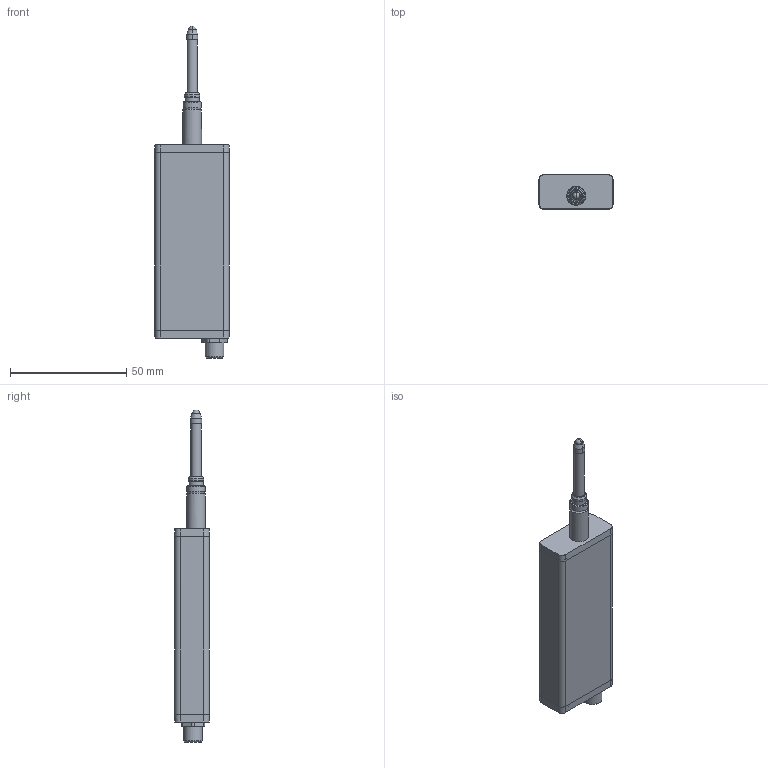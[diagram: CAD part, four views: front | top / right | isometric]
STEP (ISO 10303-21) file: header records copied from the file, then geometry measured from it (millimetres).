
FILE_DESCRIPTION(/* description */ (''),/* implementation_level */ '2;1');
FILE_NAME(/* name */ '薄测头百分普通款.stp',/* time_stamp */ '2024-05-11T17:15:11+08:00',/* author */ (''),/* organization */ (''),/* preprocessor_version */ 'ST-DEVELOPER v16.7',/* originating_system */ 'SIEMENS PLM Software NX 1919',/* authorisation */ '');
FILE_SCHEMA (('AUTOMOTIVE_DESIGN { 1 0 10303 214 3 1 1 1 }'));
Length unit declared in the file: millimetre
Products named in the file (1): jzBA6CC7D6as1j
Bounding box: 32 x 14.9 x 142.9 mm (x, y, z)
Volume: 40127.7 mm3; surface area: 11957.3 mm2
Topology: 1 solids, 2 shells, 100 faces, 260 edges, 163 vertices
Faces by surface type: plane 41, cylinder 32, cone 16, bspline 8, sphere 2, torus 1
Full cylindrical faces by diameter (mm): 4.5 x2, 6.1 x1, 6.7 x1, 7.9 x1, 8 x3
Entity records: 3513 total; most frequent: CARTESIAN_POINT 887, DIRECTION 474, ORIENTED_EDGE 452, EDGE_CURVE 226, AXIS2_PLACEMENT_3D 187, VERTEX_POINT 153, EDGE_LOOP 149, ADVANCED_FACE 100
